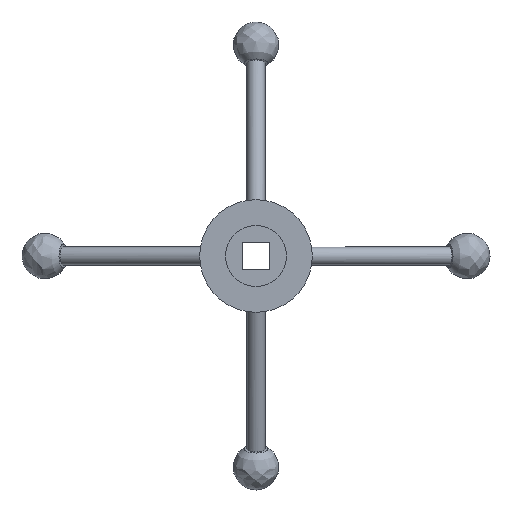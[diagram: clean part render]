
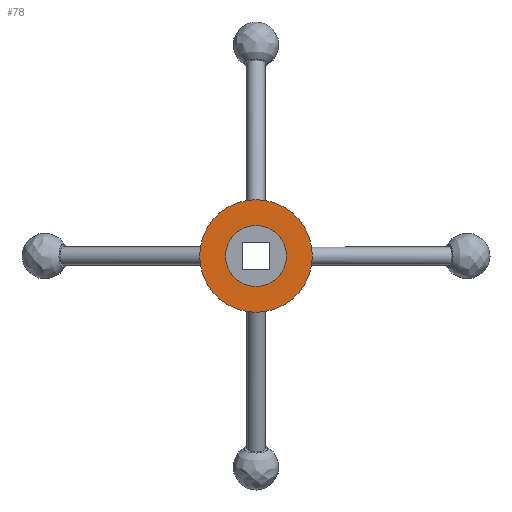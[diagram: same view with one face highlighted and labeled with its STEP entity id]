
A CAD part, front view. The second image highlights one B-rep face of the part: STEP entity #78.
In plain terms, the highlighted planar face has unit normal (0, -1, 0).
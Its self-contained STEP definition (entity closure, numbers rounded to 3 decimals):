
#78 = ADVANCED_FACE( '', ( #107, #108 ), #109, .F. );
#107 = FACE_BOUND( '', #173, .T. );
#108 = FACE_OUTER_BOUND( '', #174, .T. );
#109 = PLANE( '', #175 );
#173 = EDGE_LOOP( '', ( #384 ) );
#174 = EDGE_LOOP( '', ( #385 ) );
#175 = AXIS2_PLACEMENT_3D( '', #386, #387, #388 );
#384 = ORIENTED_EDGE( '', *, *, #489, .F. );
#385 = ORIENTED_EDGE( '', *, *, #490, .T. );
#386 = CARTESIAN_POINT( '', ( 50., 24., 0. ) );
#387 = DIRECTION( '', ( 0., 1., 0. ) );
#388 = DIRECTION( '', ( 0., 0., 1. ) );
#489 = EDGE_CURVE( '', #529, #529, #530, .T. );
#490 = EDGE_CURVE( '', #531, #531, #532, .T. );
#529 = VERTEX_POINT( '', #673 );
#530 = CIRCLE( '', #674, 27. );
#531 = VERTEX_POINT( '', #675 );
#532 = CIRCLE( '', #676, 50. );
#673 = CARTESIAN_POINT( '', ( 0., 24., -27. ) );
#674 = AXIS2_PLACEMENT_3D( '', #997, #998, #999 );
#675 = CARTESIAN_POINT( '', ( 0., 24., -50. ) );
#676 = AXIS2_PLACEMENT_3D( '', #1000, #1001, #1002 );
#997 = CARTESIAN_POINT( '', ( 0., 24., 0. ) );
#998 = DIRECTION( '', ( 0., -1., 0. ) );
#999 = DIRECTION( '', ( 0., 0., -1. ) );
#1000 = CARTESIAN_POINT( '', ( 0., 24., 0. ) );
#1001 = DIRECTION( '', ( 0., -1., 0. ) );
#1002 = DIRECTION( '', ( 0., 0., -1. ) );
